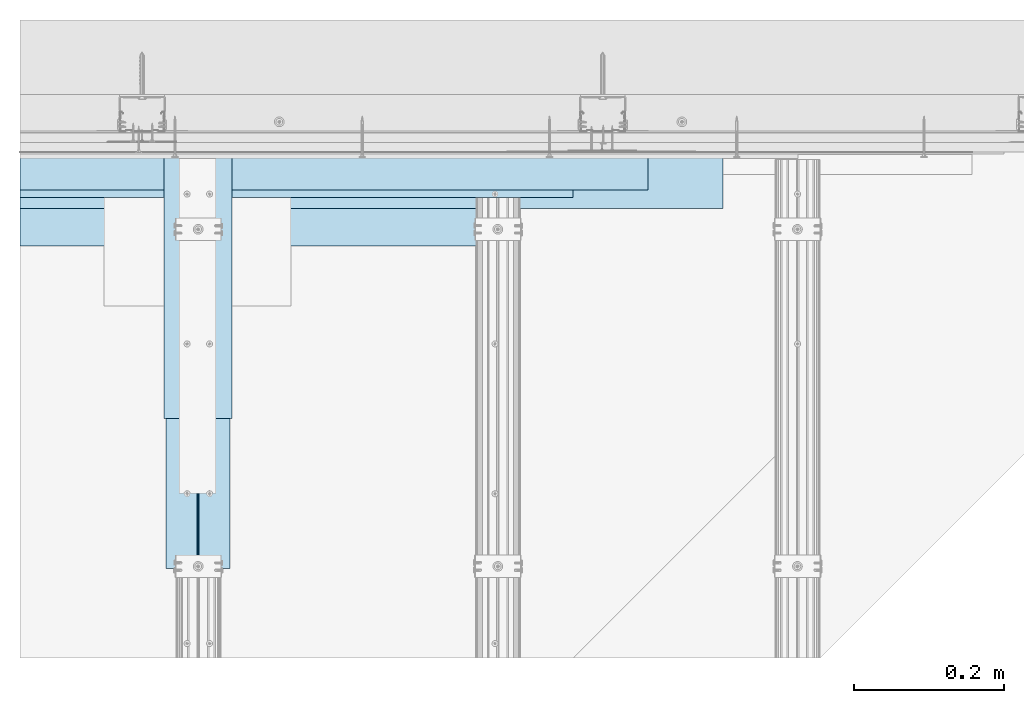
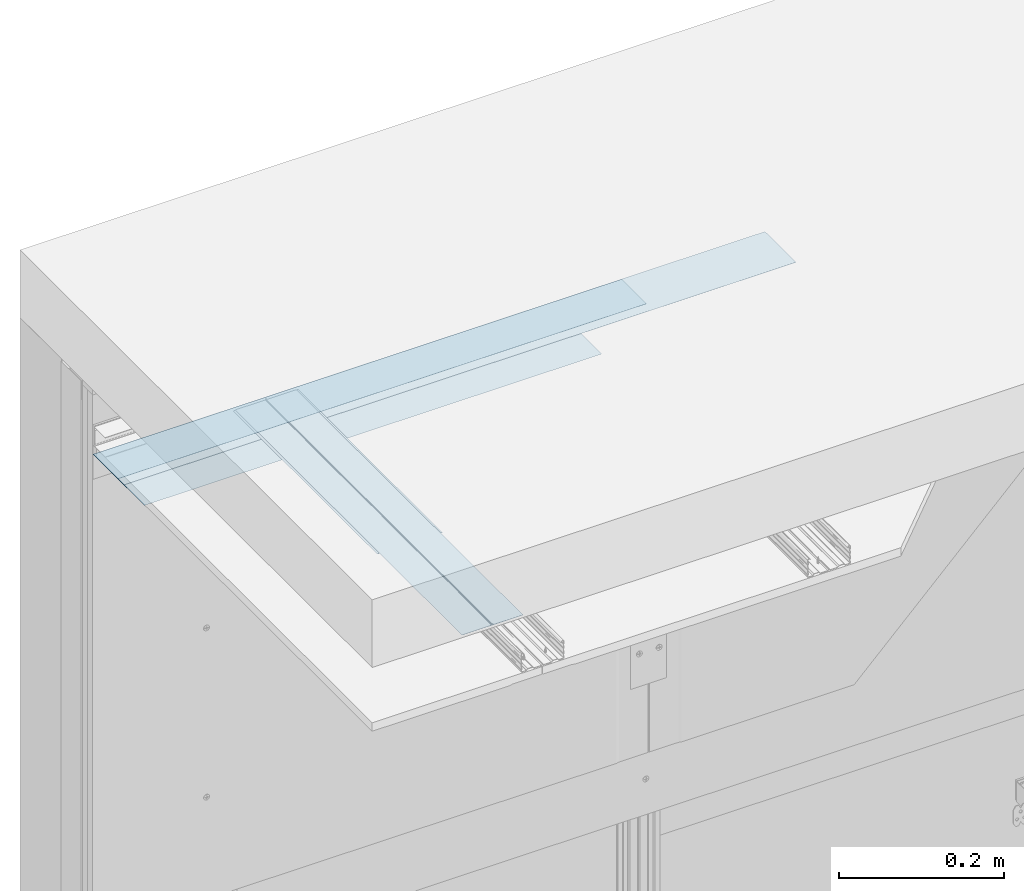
# One storey, part 3 of 62: 6 slabs.
"""IFC2X3 building model written with IfcOpenShell, lengths in millimetres."""

from ifc_helpers import new_model, entity, si_unit, converted_unit, direction, frame, origin, origin_with_axes, place, context, project, spatial, faceted_brep, element, save


model = new_model("IFC2X3")

# Units and contexts
model_context = context("Model", 3, precision=1e-05, world=origin(), true_north=direction((0.0, 1.0, 0.0)))
ifc_project = project(units=[si_unit("LENGTHUNIT", "METRE", prefix="MILLI"), si_unit("AREAUNIT", "SQUARE_METRE"), si_unit("VOLUMEUNIT", "CUBIC_METRE"), converted_unit("PLANEANGLEUNIT", "DEGREE", entity("IfcPlaneAngleMeasure", 0.01745), si_unit("PLANEANGLEUNIT", "RADIAN"), dimensions=[0, 0, 0, 0, 0, 0, 0]), si_unit("SOLIDANGLEUNIT", "STERADIAN"), si_unit("MASSUNIT", "GRAM"), si_unit("TIMEUNIT", "SECOND"), si_unit("THERMODYNAMICTEMPERATUREUNIT", "DEGREE_CELSIUS"), si_unit("LUMINOUSINTENSITYUNIT", "LUMEN")], contexts=[model_context])

# Site, building, storey
site_placement = place(None, origin_with_axes())
site = spatial("IfcSite", under=ifc_project, at=site_placement, Name="Default Site", CompositionType="ELEMENT")
building_placement = place(site_placement, origin_with_axes())
building = spatial("IfcBuilding", under=site, at=building_placement, Name="Default Building", CompositionType="ELEMENT")
storey_placement = place(building_placement, origin_with_axes())
storey = spatial("IfcBuildingStorey", under=building, at=storey_placement, Name="Default Building Storey", CompositionType="ELEMENT", Elevation=0.0)

# Slabs
slab_1_placement = place(storey_placement, frame((2612.545703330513, 2657.639293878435, 4686.828819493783), z_axis=(1.0, 1.110223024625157e-16, -6.77927340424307e-32), x_axis=(-1.110223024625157e-16, 1.0, -3.33066907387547e-16)))
element("IfcSlab", 1, at=slab_1_placement, inside=storey, Name="Taśma spoinowa RIGIPS", context=model_context, shape_type="Brep", body=[
    faceted_brep([(-712.4592163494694, -3389.656721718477, 350.8), (-712.4592163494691, -3389.856721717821, 350.8), (-762.4592163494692, -3389.856721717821, 350.8), (-762.4592163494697, -3389.656721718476, 350.8), (-712.4592163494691, -3389.856721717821, -487.5205698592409), (-712.4592163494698, -3389.656721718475, -487.5205698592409), (-762.45921634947, -3389.656721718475, -487.5205698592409), (-762.4592163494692, -3389.856721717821, -487.5205698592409)], [[[0, 1, 2, 3]], [[4, 5, 6, 7]], [[5, 0, 3, 6]], [[6, 3, 2, 7]], [[7, 2, 1, 4]], [[4, 1, 0, 5]]]),
])
slab_2_placement = place(storey_placement, frame((2662.545703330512, 2657.639293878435, 4687.028819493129), z_axis=(1.0, 1.110223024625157e-16, -6.77927340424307e-32), x_axis=(-1.110223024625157e-16, 1.0, -3.33066907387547e-16)))
element("IfcSlab", 2, at=slab_2_placement, inside=storey, Name="Dedykowana masa szpachlowa Rigips - konstrukcyjna", context=model_context, shape_type="Brep", body=[
    faceted_brep([(-712.4592163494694, -3389.656721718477, 400.7999999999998), (-712.4592163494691, -3389.856721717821, 400.7999999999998), (-787.4592163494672, -3389.856721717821, 400.7999999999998), (-787.4592163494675, -3389.656721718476, 400.7999999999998), (-712.4592163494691, -3389.856721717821, -537.520569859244), (-712.4592163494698, -3389.656721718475, -537.520569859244), (-787.459216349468, -3389.656721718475, -537.520569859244), (-787.4592163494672, -3389.856721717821, -537.520569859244)], [[[0, 1, 2, 3]], [[4, 5, 6, 7]], [[5, 0, 3, 6]], [[6, 3, 2, 7]], [[7, 2, 1, 4]], [[4, 1, 0, 5]]]),
])
slab_3_placement = place(storey_placement, frame((2562.545703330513, 2657.639293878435, 4686.628819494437), z_axis=(1.0, 1.110223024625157e-16, -6.77927340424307e-32), x_axis=(-1.110223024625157e-16, 1.0, -3.33066907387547e-16)))
element("IfcSlab", 3, at=slab_3_placement, inside=storey, Name="Dedykowana masa szpachlowa Rigips - konstrukcyjna", context=model_context, shape_type="Brep", body=[
    faceted_brep([(-762.4592163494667, -3389.656721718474, -437.5205698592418), (-762.4592163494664, -3389.656721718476, 300.7999999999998), (-762.459216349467, -3389.456721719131, 300.8000000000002), (-762.4592163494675, -3389.45672171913, -437.5205698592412), (-772.4592163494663, -3389.456721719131, 300.8000000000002), (-772.4592163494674, -3389.45672171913, -437.5205698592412), (-712.4592163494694, -3389.656721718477, 300.7999999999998), (-712.4592163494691, -3389.856721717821, 300.7999999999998), (-772.4592163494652, -3389.856721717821, 300.7999999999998), (-712.4592163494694, -3389.856721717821, -437.5205698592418), (-712.4592163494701, -3389.656721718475, -437.5205698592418), (-772.4592163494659, -3389.856721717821, -437.5205698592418)], [[[0, 1, 2, 3]], [[2, 4, 5, 3]], [[6, 7, 8, 4, 2, 1]], [[9, 10, 0, 3, 5, 11]], [[0, 10, 6, 1]], [[4, 8, 11, 5]], [[11, 8, 7, 9]], [[9, 7, 6, 10]]]),
])
slab_4_placement = place(storey_placement, frame((2316.976086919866, 1390.2156819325, 1298.072097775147), z_axis=(0.0, 0.0, 1.0), x_axis=(1.0, 0.0, 0.0)))
element("IfcSlab", 4, at=slab_4_placement, inside=storey, Name="Dedykowana masa szpachlowa Rigips - konstrukcyjna", context=model_context, shape_type="Brep", body=[
    faceted_brep([(44.96592582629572, 0.0, 1.041180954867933), (44.96592582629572, 548.3500030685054, 1.041180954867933), (44.86602540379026, 548.3500030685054, 0.7999999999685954), (44.86602540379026, 0.0, 0.7999999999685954), (46.03407417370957, 0.0, 1.041180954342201), (46.03407417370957, 548.3500030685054, 1.041180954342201), (45.99999999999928, 548.3500030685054, 1.299999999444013), (45.99999999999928, 0.0, 1.299999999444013), (44.70710678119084, 1.804778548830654e-13, 0.5928932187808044), (44.70710678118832, 548.3500030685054, 0.5928932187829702), (44.5000000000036, 548.3500030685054, 0.433974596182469), (44.50000000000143, 0.0, 0.4339745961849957), (46.13397459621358, -1.804778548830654e-13, 0.7999999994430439), (46.13397459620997, 548.3500030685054, 0.7999999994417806), (47.00000000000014, 0.0, 0.2999999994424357), (47.00000000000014, 548.3500030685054, 0.2999999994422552), (46.74118095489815, 548.3500030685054, 0.3340741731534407), (46.74118095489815, 0.0, 0.3340741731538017), (46.49999999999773, -1.804778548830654e-13, 0.4339745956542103), (46.49999999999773, 548.3500030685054, 0.4339745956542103), (46.29289321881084, 548.3500030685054, 0.5928932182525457), (46.29289321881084, -1.804778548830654e-13, 0.5928932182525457), (44.2588190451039, 548.3500030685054, 0.3340741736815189), (44.2588190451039, 0.0, 0.3340741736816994), (87.00000000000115, 0.0, 0.2999999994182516), (87.00000000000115, 548.3500030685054, 0.2999999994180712), (88.1999999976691, 0.0, 0.0), (88.1999999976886, 548.3500030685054, -1.804778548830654e-13), (46.00000000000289, 548.3500030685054, 1.999999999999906), (46.00000000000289, 0.0, 1.999999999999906), (3.999999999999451, 0.0, 0.3000000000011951), (3.999999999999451, 548.3500030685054, 0.3000000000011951), (2.799999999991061, 548.3500030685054, 0.0), (2.799999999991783, 0.0, 1.804778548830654e-13), (44.99999999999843, 548.3500030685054, 1.999999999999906), (44.00000000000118, 548.3500030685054, 0.2999999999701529), (45.00000000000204, 548.3500030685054, 1.299999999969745), (44.99999999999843, 0.0, 1.999999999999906), (45.00000000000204, 0.0, 1.299999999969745), (44.00000000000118, 0.0, 0.2999999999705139)], [[[0, 1, 2, 3]], [[4, 5, 6, 7]], [[8, 9, 10, 11]], [[12, 13, 5, 4]], [[14, 15, 16, 17]], [[18, 19, 20, 21]], [[11, 10, 22, 23]], [[21, 20, 13, 12]], [[24, 25, 15, 14]], [[24, 26, 27, 25]], [[7, 6, 28, 29]], [[30, 31, 32, 33]], [[32, 27, 26, 33]], [[17, 16, 19, 18]], [[34, 28, 6, 5, 13, 20, 19, 16, 15, 25, 27, 32, 31, 35, 22, 10, 9, 2, 1, 36]], [[33, 26, 24, 14, 17, 18, 21, 12, 4, 7, 29, 37, 38, 0, 3, 8, 11, 23, 39, 30]], [[38, 37, 34, 36]], [[37, 29, 28, 34]], [[39, 35, 31, 30]], [[3, 2, 9, 8]], [[38, 36, 1, 0]], [[23, 22, 35, 39]]]),
])
slab_5_placement = place(storey_placement, frame((2316.976086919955, 1590.215681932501, 1297.372097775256), z_axis=(0.0, 0.0, 1.0), x_axis=(1.0, 0.0, 0.0)))
element("IfcSlab", 5, at=slab_5_placement, inside=storey, Name="Dedykowana masa szpachlowa Rigips - konstrukcyjna", context=model_context, shape_type="Brep", body=[
    faceted_brep([(2.799999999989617, 348.350003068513, 0.6999999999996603), (20.00000000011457, 348.350003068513, 0.6999999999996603), (20.00000000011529, 348.350003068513, 0.2999999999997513), (70.00000000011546, 348.350003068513, 0.2999999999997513), (70.00000000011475, 348.350003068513, 0.6999999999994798), (88.19999999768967, 348.350003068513, 0.6999999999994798), (90.99999999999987, 348.350003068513, 0.0), (0.0, 348.350003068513, 0.0), (70.00000000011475, 1.263344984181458e-12, 0.6999999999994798), (88.19999999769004, 0.0, 0.6999999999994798), (20.00000000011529, 3.609557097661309e-13, 0.2999999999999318), (20.00000000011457, 5.414335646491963e-13, 0.6999999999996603), (2.800000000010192, 5.414335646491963e-13, 0.6999999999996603), (90.99999999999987, 0.0, 0.0), (70.00000000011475, 1.804778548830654e-13, 0.3000000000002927), (0.0, 0.0, 0.0)], [[[0, 1, 2, 3, 4, 5, 6, 7]], [[5, 4, 8, 9]], [[10, 2, 1, 11]], [[12, 11, 1, 0]], [[13, 6, 5, 9]], [[9, 8, 14, 10, 11, 12, 15, 13]], [[13, 15, 7, 6]], [[14, 8, 4, 3]], [[14, 3, 2, 10]], [[15, 12, 0, 7]]]),
])
slab_6_placement = place(storey_placement, frame((2113.890138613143, 2682.639293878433, 4687.928819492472), z_axis=(1.0, 3.608224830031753e-16, 3.330669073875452e-16), x_axis=(-3.608224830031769e-16, 1.0, 2.126226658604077e-31)))
element("IfcSlab", 6, at=slab_6_placement, inside=storey, Name="Dedykowana masa szpachlowa Rigips - wykończeniowa", context=model_context, shape_type="Brep", body=[
    faceted_brep([(-797.4592163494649, -3390.75672171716, 649.4555647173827), (-812.459216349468, -3390.756721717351, 649.4555647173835), (-812.4592163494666, -3390.756721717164, 11.13499485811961), (-797.4592163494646, -3390.75672171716, 11.13499485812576), (-762.4602403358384, -3391.516720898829, 649.4555647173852), (-762.4602403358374, -3391.516720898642, 11.13499485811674), (-812.4612643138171, -3391.196716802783, 11.13499485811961), (-812.4612643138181, -3391.19671680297, 649.4555647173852), (-797.4592163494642, -3391.156721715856, 11.13499485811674), (-797.4592163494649, -3391.156721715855, 649.4555647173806), (-737.4592163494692, -3391.516720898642, 11.13499485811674), (-737.4592163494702, -3391.516720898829, 649.4555647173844), (-862.459216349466, -3390.556721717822, 11.13499485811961), (-862.4592163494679, -3390.556721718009, 649.4555647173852), (-737.4592163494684, -3391.156721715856, 649.4555647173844), (-812.459216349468, -3390.556721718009, 649.4555647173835), (-737.4592163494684, -3391.156721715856, 11.13499485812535), (-812.4592163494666, -3390.556721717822, 11.13499485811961)], [[[0, 1, 2, 3]], [[4, 5, 6, 7]], [[8, 9, 0, 3]], [[10, 5, 4, 11]], [[12, 13, 7, 6]], [[14, 11, 4, 7, 13, 15, 1, 0, 9]], [[16, 10, 11, 14]], [[15, 13, 12, 17]], [[15, 17, 2, 1]], [[16, 14, 9, 8]], [[3, 2, 17, 12, 6, 5, 10, 16, 8]]]),
])

save(model, "model.ifc")
